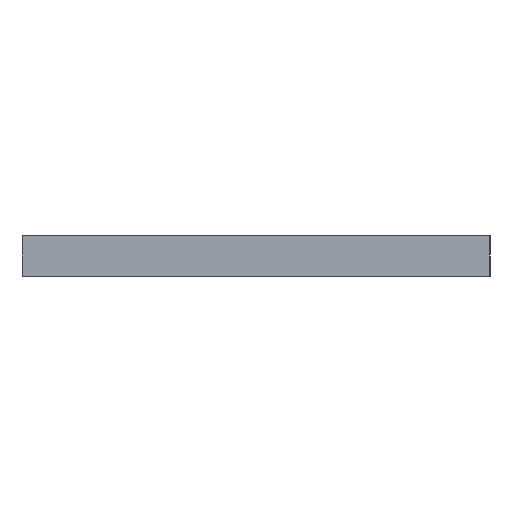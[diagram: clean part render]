
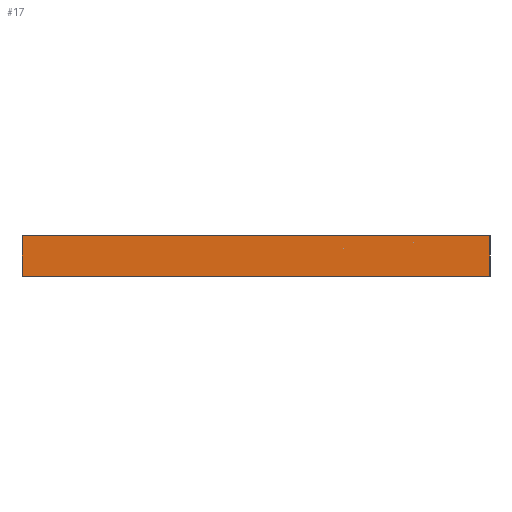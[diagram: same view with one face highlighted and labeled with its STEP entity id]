
A CAD part, left-side view. The second image highlights one B-rep face of the part: STEP entity #17.
In plain terms, the highlighted planar face has unit normal (-1, 0, 0).
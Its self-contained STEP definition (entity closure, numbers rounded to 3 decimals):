
#17 = ADVANCED_FACE('',(#18),#32,.F.);
#18 = FACE_BOUND('',#19,.F.);
#19 = EDGE_LOOP('',(#20,#55,#83,#111));
#20 = ORIENTED_EDGE('',*,*,#21,.F.);
#21 = EDGE_CURVE('',#22,#24,#26,.T.);
#22 = VERTEX_POINT('',#23);
#23 = CARTESIAN_POINT('',(0.,0.,0.));
#24 = VERTEX_POINT('',#25);
#25 = CARTESIAN_POINT('',(0.,0.,3.));
#26 = SURFACE_CURVE('',#27,(#31,#43),.PCURVE_S1.);
#27 = LINE('',#28,#29);
#28 = CARTESIAN_POINT('',(0.,0.,0.));
#29 = VECTOR('',#30,1.);
#30 = DIRECTION('',(0.,0.,1.));
#31 = PCURVE('',#32,#37);
#32 = PLANE('',#33);
#33 = AXIS2_PLACEMENT_3D('',#34,#35,#36);
#34 = CARTESIAN_POINT('',(0.,0.,0.));
#35 = DIRECTION('',(1.,0.,0.));
#36 = DIRECTION('',(0.,0.,1.));
#37 = DEFINITIONAL_REPRESENTATION('',(#38),#42);
#38 = LINE('',#39,#40);
#39 = CARTESIAN_POINT('',(0.,0.));
#40 = VECTOR('',#41,1.);
#41 = DIRECTION('',(1.,0.));
#42 = ( GEOMETRIC_REPRESENTATION_CONTEXT(2) 
PARAMETRIC_REPRESENTATION_CONTEXT() REPRESENTATION_CONTEXT('2D SPACE',''
  ) );
#43 = PCURVE('',#44,#49);
#44 = PLANE('',#45);
#45 = AXIS2_PLACEMENT_3D('',#46,#47,#48);
#46 = CARTESIAN_POINT('',(0.,0.,0.));
#47 = DIRECTION('',(0.,1.,0.));
#48 = DIRECTION('',(0.,0.,1.));
#49 = DEFINITIONAL_REPRESENTATION('',(#50),#54);
#50 = LINE('',#51,#52);
#51 = CARTESIAN_POINT('',(0.,0.));
#52 = VECTOR('',#53,1.);
#53 = DIRECTION('',(1.,0.));
#54 = ( GEOMETRIC_REPRESENTATION_CONTEXT(2) 
PARAMETRIC_REPRESENTATION_CONTEXT() REPRESENTATION_CONTEXT('2D SPACE',''
  ) );
#55 = ORIENTED_EDGE('',*,*,#56,.T.);
#56 = EDGE_CURVE('',#22,#57,#59,.T.);
#57 = VERTEX_POINT('',#58);
#58 = CARTESIAN_POINT('',(0.,35.,0.));
#59 = SURFACE_CURVE('',#60,(#64,#71),.PCURVE_S1.);
#60 = LINE('',#61,#62);
#61 = CARTESIAN_POINT('',(0.,0.,0.));
#62 = VECTOR('',#63,1.);
#63 = DIRECTION('',(0.,1.,0.));
#64 = PCURVE('',#32,#65);
#65 = DEFINITIONAL_REPRESENTATION('',(#66),#70);
#66 = LINE('',#67,#68);
#67 = CARTESIAN_POINT('',(0.,0.));
#68 = VECTOR('',#69,1.);
#69 = DIRECTION('',(0.,-1.));
#70 = ( GEOMETRIC_REPRESENTATION_CONTEXT(2) 
PARAMETRIC_REPRESENTATION_CONTEXT() REPRESENTATION_CONTEXT('2D SPACE',''
  ) );
#71 = PCURVE('',#72,#77);
#72 = PLANE('',#73);
#73 = AXIS2_PLACEMENT_3D('',#74,#75,#76);
#74 = CARTESIAN_POINT('',(0.,0.,0.));
#75 = DIRECTION('',(0.,0.,1.));
#76 = DIRECTION('',(1.,0.,0.));
#77 = DEFINITIONAL_REPRESENTATION('',(#78),#82);
#78 = LINE('',#79,#80);
#79 = CARTESIAN_POINT('',(0.,0.));
#80 = VECTOR('',#81,1.);
#81 = DIRECTION('',(0.,1.));
#82 = ( GEOMETRIC_REPRESENTATION_CONTEXT(2) 
PARAMETRIC_REPRESENTATION_CONTEXT() REPRESENTATION_CONTEXT('2D SPACE',''
  ) );
#83 = ORIENTED_EDGE('',*,*,#84,.T.);
#84 = EDGE_CURVE('',#57,#85,#87,.T.);
#85 = VERTEX_POINT('',#86);
#86 = CARTESIAN_POINT('',(0.,35.,3.));
#87 = SURFACE_CURVE('',#88,(#92,#99),.PCURVE_S1.);
#88 = LINE('',#89,#90);
#89 = CARTESIAN_POINT('',(0.,35.,0.));
#90 = VECTOR('',#91,1.);
#91 = DIRECTION('',(0.,0.,1.));
#92 = PCURVE('',#32,#93);
#93 = DEFINITIONAL_REPRESENTATION('',(#94),#98);
#94 = LINE('',#95,#96);
#95 = CARTESIAN_POINT('',(0.,-35.));
#96 = VECTOR('',#97,1.);
#97 = DIRECTION('',(1.,0.));
#98 = ( GEOMETRIC_REPRESENTATION_CONTEXT(2) 
PARAMETRIC_REPRESENTATION_CONTEXT() REPRESENTATION_CONTEXT('2D SPACE',''
  ) );
#99 = PCURVE('',#100,#105);
#100 = PLANE('',#101);
#101 = AXIS2_PLACEMENT_3D('',#102,#103,#104);
#102 = CARTESIAN_POINT('',(0.,35.,0.));
#103 = DIRECTION('',(0.,1.,0.));
#104 = DIRECTION('',(0.,0.,1.));
#105 = DEFINITIONAL_REPRESENTATION('',(#106),#110);
#106 = LINE('',#107,#108);
#107 = CARTESIAN_POINT('',(0.,0.));
#108 = VECTOR('',#109,1.);
#109 = DIRECTION('',(1.,0.));
#110 = ( GEOMETRIC_REPRESENTATION_CONTEXT(2) 
PARAMETRIC_REPRESENTATION_CONTEXT() REPRESENTATION_CONTEXT('2D SPACE',''
  ) );
#111 = ORIENTED_EDGE('',*,*,#112,.F.);
#112 = EDGE_CURVE('',#24,#85,#113,.T.);
#113 = SURFACE_CURVE('',#114,(#118,#125),.PCURVE_S1.);
#114 = LINE('',#115,#116);
#115 = CARTESIAN_POINT('',(0.,0.,3.));
#116 = VECTOR('',#117,1.);
#117 = DIRECTION('',(0.,1.,0.));
#118 = PCURVE('',#32,#119);
#119 = DEFINITIONAL_REPRESENTATION('',(#120),#124);
#120 = LINE('',#121,#122);
#121 = CARTESIAN_POINT('',(3.,0.));
#122 = VECTOR('',#123,1.);
#123 = DIRECTION('',(0.,-1.));
#124 = ( GEOMETRIC_REPRESENTATION_CONTEXT(2) 
PARAMETRIC_REPRESENTATION_CONTEXT() REPRESENTATION_CONTEXT('2D SPACE',''
  ) );
#125 = PCURVE('',#126,#131);
#126 = PLANE('',#127);
#127 = AXIS2_PLACEMENT_3D('',#128,#129,#130);
#128 = CARTESIAN_POINT('',(0.,0.,3.));
#129 = DIRECTION('',(0.,0.,1.));
#130 = DIRECTION('',(1.,0.,0.));
#131 = DEFINITIONAL_REPRESENTATION('',(#132),#136);
#132 = LINE('',#133,#134);
#133 = CARTESIAN_POINT('',(0.,0.));
#134 = VECTOR('',#135,1.);
#135 = DIRECTION('',(0.,1.));
#136 = ( GEOMETRIC_REPRESENTATION_CONTEXT(2) 
PARAMETRIC_REPRESENTATION_CONTEXT() REPRESENTATION_CONTEXT('2D SPACE',''
  ) );
